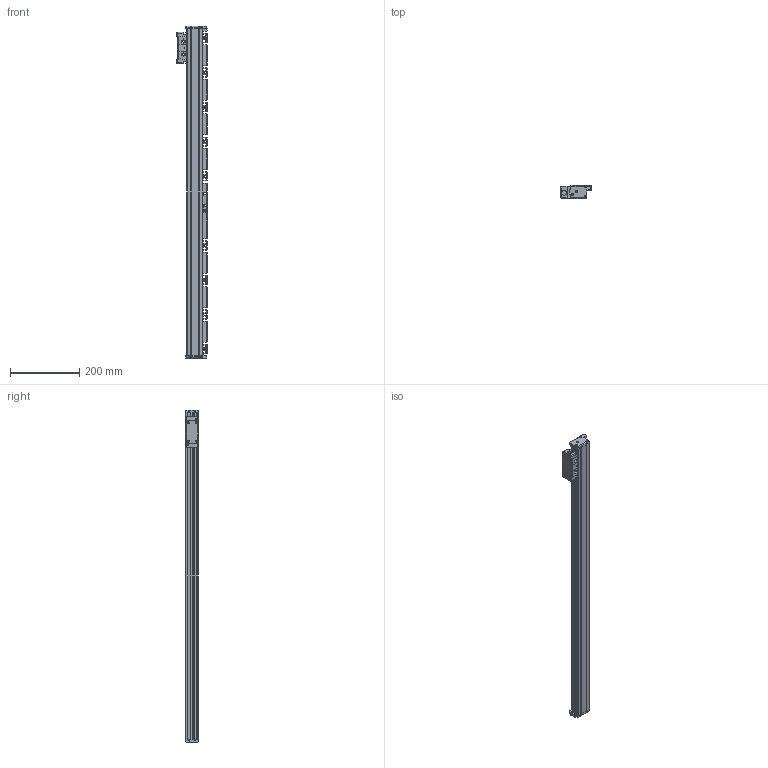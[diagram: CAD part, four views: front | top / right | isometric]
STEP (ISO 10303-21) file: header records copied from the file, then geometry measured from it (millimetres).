
FILE_DESCRIPTION(/* description */ (''),/* implementation_level */ '2;1');
FILE_NAME(/* name */ 'JC21A-840-1.stp',/* time_stamp */ '2023-12-21T16:38:02+08:00',/* author */ (''),/* organization */ (''),/* preprocessor_version */ 'ST-DEVELOPER v14',/* originating_system */ 'SIEMENS PLM Software NX 8.0',/* authorisation */ '');
FILE_SCHEMA (('CONFIG_CONTROL_DESIGN'));
Length unit declared in the file: millimetre
Products named in the file (1): JC21A-840-1
Bounding box: 87.5 x 37 x 961 mm (x, y, z)
Volume: 1546377 mm3; surface area: 264050.1 mm2
Topology: 4 solids, 6 shells, 725 faces, 2110 edges, 1399 vertices
Faces by surface type: plane 450, cylinder 243, cone 22, bspline 8, extrusion 2
Full cylindrical faces by diameter (mm): 2.5 x12, 3.3 x6, 3.7 x4, 4.2 x4, 5 x2, 6 x6, 6.6 x2, 6.8 x12, 7 x2, 13.2 x2
Entity records: 24261 total; most frequent: CARTESIAN_POINT 4927, ORIENTED_EDGE 4016, DIRECTION 3976, EDGE_CURVE 2008, VERTEX_POINT 1371, VECTOR 1334, LINE 1332, AXIS2_PLACEMENT_3D 1321
